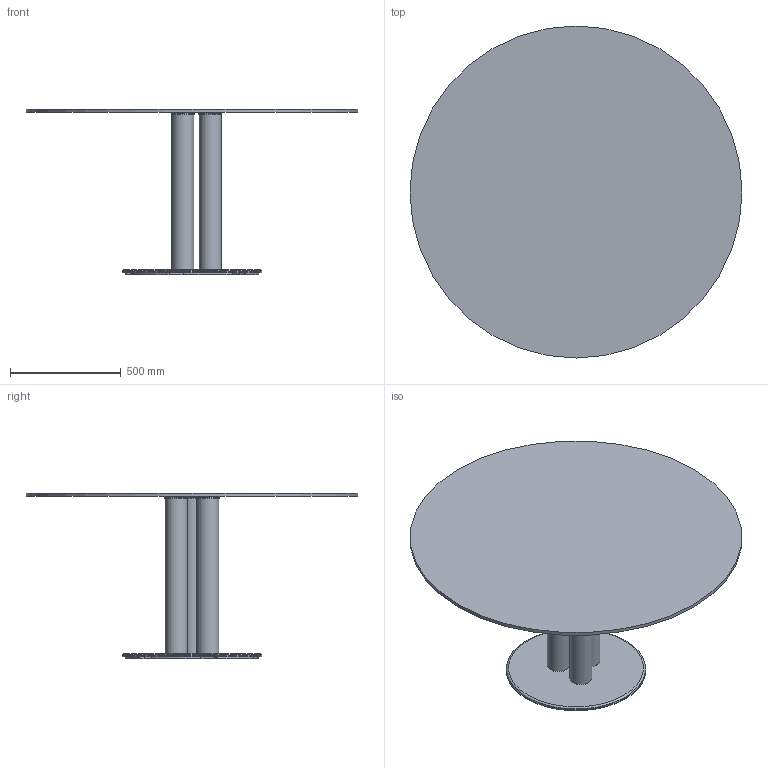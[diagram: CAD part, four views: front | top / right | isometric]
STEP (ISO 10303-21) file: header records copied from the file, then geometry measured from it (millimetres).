
FILE_DESCRIPTION(/* description */ (''),/* implementation_level */ '2;1');
FILE_NAME(/* name */ '2532-D150.stp',/* time_stamp */ '2025-03-13T20:49:25+01:00',/* author */ (''),/* organization */ (''),/* preprocessor_version */ 'ST-DEVELOPER v16.7',/* originating_system */ 'SIEMENS PLM Software NX 1934',/* authorisation */ '');
FILE_SCHEMA (('AUTOMOTIVE_DESIGN { 1 0 10303 214 3 1 1 1 }'));
Length unit declared in the file: millimetre
Products named in the file (1): franF21485C82lv8
Bounding box: 1500 x 1500 x 749 mm (x, y, z)
Volume: 32444568.8 mm3; surface area: 5800526.6 mm2
Topology: 17 solids, 17 shells, 174 faces, 334 edges, 215 vertices
Faces by surface type: cylinder 68, plane 67, torus 25, cone 14
Full cylindrical faces by diameter (mm): 12 x3, 17.5 x3, 20 x6, 71 x3, 72.5 x3, 97 x3, 98.5 x3, 100 x3, 105.5 x3, 632 x1, 1500 x1
Entity records: 4153 total; most frequent: DIRECTION 784, CARTESIAN_POINT 633, ORIENTED_EDGE 506, AXIS2_PLACEMENT_3D 356, EDGE_LOOP 278, EDGE_CURVE 253, FACE_BOUND 206, VERTEX_POINT 205
